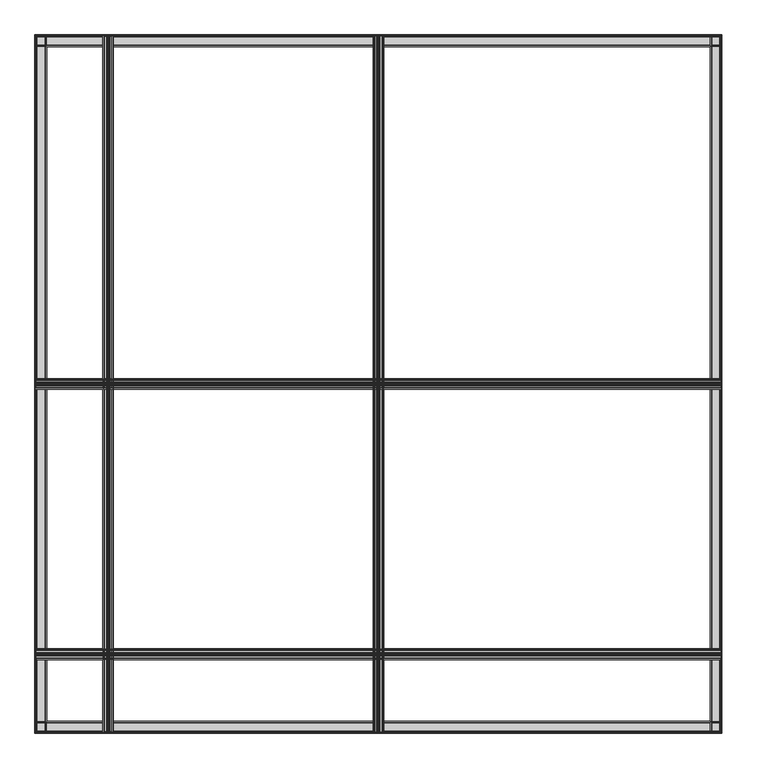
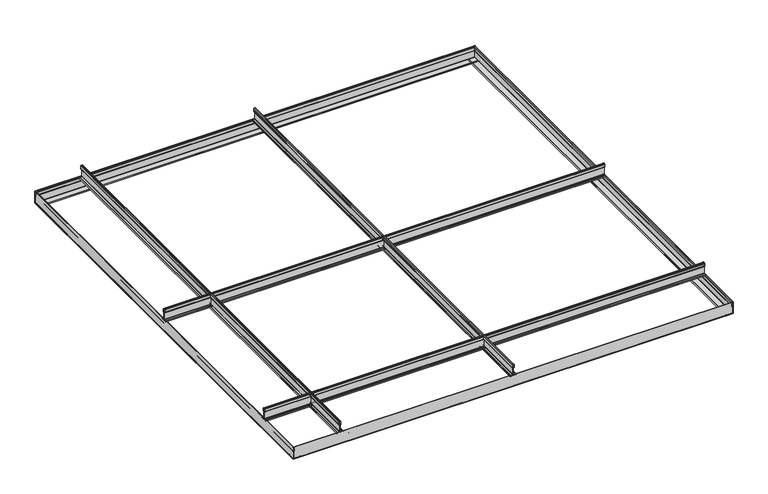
"""IFC4 building model written with IfcOpenShell, lengths in millimetres: proxy geometry, Maxxit_Highland-Ceiling_rev-01 : Maxxit_Highland-Ceiling_Solo."""

from ifc_helpers import new_model, si_unit, point, frame, frame_2d, origin, place, context, project, spatial, polyline, circle_curve, trimmed, segment, composite_curve, outline, extrude, source, transform, mapped, element, save


def generic_models_a852b606(model_context):
    return source(origin(), model_context, "Body", "SweptSolid", [
        extrude(outline(composite_curve([segment(polyline([(26.3453115, 775.8459122), (26.0364605, 784.2159382), (27.0486923, 784.2159382), (27.0486923, 776.4525313)]), True, "CONTINUOUS"), segment(trimmed(circle_curve(frame_2d((28.0053766, 776.4525313)), 0.9566843), [point((27.0486923, 776.4525313))], [point((28.0053766, 775.495847))], True, "CARTESIAN"), True, "CONTINUOUS"), segment(polyline([(28.0053766, 775.495847), (53.7729211, 775.495847)]), True, "CONTINUOUS"), segment(trimmed(circle_curve(frame_2d((53.6130577, 776.2226944)), 0.74422), [point((53.7729211, 775.495847))], [point((54.356, 776.1791036))], True, "CARTESIAN"), True, "CONTINUOUS"), segment(trimmed(circle_curve(frame_2d((58.371716, 776.4382203)), 4.0240672), [point((54.356, 776.1791036))], [point((54.4068054, 777.1256795))], False, "CARTESIAN"), True, "CONTINUOUS"), segment(trimmed(circle_curve(frame_2d((55.7865501, 776.767924)), 1.4253717), [point((54.4068054, 777.1256795))], [point((55.7865501, 778.1932957))], False, "CARTESIAN"), True, "CONTINUOUS"), segment(polyline([(55.7865501, 778.1932957), (64.7585942, 778.1932957)]), True, "CONTINUOUS"), segment(trimmed(circle_curve(frame_2d((64.8150812, 776.1432108)), 2.0508629), [point((64.7585942, 778.1932957))], [point((66.2652603, 777.5933899))], False, "CARTESIAN"), True, "CONTINUOUS"), segment(polyline([(66.2652603, 777.5933899), (68.1708325, 775.6878177)]), True, "CONTINUOUS"), segment(trimmed(circle_curve(frame_2d((67.1830148, 774.7)), 1.3969852), [point((68.1708325, 775.6878177))], [point((68.1708325, 773.7121823))], False, "CARTESIAN"), True, "CONTINUOUS"), segment(polyline([(68.1708325, 773.7121823), (66.2652603, 771.8066101)]), True, "CONTINUOUS"), segment(trimmed(circle_curve(frame_2d((64.8150812, 773.2567892)), 2.0508629), [point((66.2652603, 771.8066101))], [point((64.7585942, 771.2067043))], False, "CARTESIAN"), True, "CONTINUOUS"), segment(polyline([(64.7585942, 771.2067043), (55.7865501, 771.2067043)]), True, "CONTINUOUS"), segment(trimmed(circle_curve(frame_2d((55.7865501, 772.632076)), 1.4253717), [point((55.7865501, 771.2067043))], [point((54.4068054, 772.2743205))], False, "CARTESIAN"), True, "CONTINUOUS"), segment(trimmed(circle_curve(frame_2d((58.371716, 772.9617797)), 4.0240672), [point((54.4068054, 772.2743205))], [point((54.356, 773.2208964))], False, "CARTESIAN"), True, "CONTINUOUS"), segment(trimmed(circle_curve(frame_2d((53.6130577, 773.1773056)), 0.74422), [point((54.356, 773.2208964))], [point((53.7436541, 773.9099774))], True, "CARTESIAN"), True, "CONTINUOUS"), segment(polyline([(53.7436541, 773.9099774), (28.0053766, 773.9099774)]), True, "CONTINUOUS"), segment(trimmed(circle_curve(frame_2d((28.0053766, 772.9532931)), 0.9566843), [point((28.0053766, 773.9099774))], [point((27.0486923, 772.9532931))], True, "CARTESIAN"), True, "CONTINUOUS"), segment(polyline([(27.0486923, 772.9532931), (27.0486923, 764.3569771), (26.0290179, 764.3569771), (26.3453115, 773.5599122)]), True, "CONTINUOUS"), segment(trimmed(circle_curve(frame_2d((27.4883115, 773.5599122)), 1.143), [point((26.3453115, 773.5599122))], [point((27.4883115, 774.7029122))], False, "CARTESIAN"), True, "CONTINUOUS"), segment(trimmed(circle_curve(frame_2d((27.4883115, 775.8459122)), 1.143), [point((27.4883115, 774.7029122))], [point((26.3453115, 775.8459122))], False, "CARTESIAN"), True, "CONTINUOUS")], self_intersect=False), holes=[composite_curve([segment(trimmed(circle_curve(frame_2d((54.058724, 773.6303923)), 1.0922), [point((54.2797221, 774.7))], [point((55.150924, 773.6303923))], False, "CARTESIAN"), True, "CONTINUOUS"), segment(polyline([(55.150924, 773.6303923), (55.150924, 772.6399715)]), True, "CONTINUOUS"), segment(trimmed(circle_curve(frame_2d((55.7859245, 772.6399715)), 0.6350005), [point((55.150924, 772.6399715))], [point((55.7859245, 772.004971))], True, "CARTESIAN"), True, "CONTINUOUS"), segment(polyline([(55.7859245, 772.004971), (64.7585942, 772.004971)]), True, "CONTINUOUS"), segment(trimmed(circle_curve(frame_2d((64.7240599, 773.5078141)), 1.5032399), [point((64.7585942, 772.004971))], [point((65.7039943, 772.3678761))], True, "CARTESIAN"), True, "CONTINUOUS"), segment(polyline([(65.7039943, 772.3678761), (67.6095665, 774.2734483)]), True, "CONTINUOUS"), segment(trimmed(circle_curve(frame_2d((67.1830148, 774.7)), 0.6032352), [point((67.6095665, 774.2734483))], [point((67.6095665, 775.1265517))], True, "CARTESIAN"), True, "CONTINUOUS"), segment(polyline([(67.6095665, 775.1265517), (65.7039943, 777.0321239)]), True, "CONTINUOUS"), segment(trimmed(circle_curve(frame_2d((64.7240599, 775.8921859)), 1.5032399), [point((65.7039943, 777.0321239))], [point((64.7585942, 777.395029))], True, "CARTESIAN"), True, "CONTINUOUS"), segment(polyline([(64.7585942, 777.395029), (55.7859245, 777.395029)]), True, "CONTINUOUS"), segment(trimmed(circle_curve(frame_2d((55.7859245, 776.7600285)), 0.6350005), [point((55.7859245, 777.395029))], [point((55.150924, 776.7600285))], True, "CARTESIAN"), True, "CONTINUOUS"), segment(polyline([(55.150924, 776.7600285), (55.150924, 775.7696077)]), True, "CONTINUOUS"), segment(trimmed(circle_curve(frame_2d((54.058724, 775.7696077)), 1.0922), [point((55.150924, 775.7696077))], [point((54.2797221, 774.7))], False, "CARTESIAN"), True, "CONTINUOUS")], self_intersect=False)]), frame((0.0, -0.79375, 0.0), z_axis=(0.0, 1.0, 0.0), x_axis=(0.0, 0.0, 1.0)), (0.0, 0.0, 1.0), 1574.8),
        extrude(outline(composite_curve([segment(trimmed(circle_curve(frame_2d((26.8823557, 785.1357385)), 1.4823557), [point((25.4, 785.1357385))], [point((28.3175237, 784.7646975))], False, "CARTESIAN"), True, "CONTINUOUS"), segment(polyline([(28.3175237, 784.7646975), (27.887022, 783.2385205), (27.123083, 783.4540113), (27.550773, 784.9702203)]), True, "CONTINUOUS"), segment(trimmed(circle_curve(frame_2d((26.8823557, 785.1357385)), 0.6886057), [point((27.550773, 784.9702203))], [point((26.19375, 785.1357385))], True, "CARTESIAN"), True, "CONTINUOUS"), segment(polyline([(26.19375, 785.1357385), (26.19375, 764.2642615)]), True, "CONTINUOUS"), segment(trimmed(circle_curve(frame_2d((26.8823557, 764.2642615)), 0.6886057), [point((26.19375, 764.2642615))], [point((27.550773, 764.4297797))], True, "CARTESIAN"), True, "CONTINUOUS"), segment(polyline([(27.550773, 764.4297797), (27.123083, 765.9459887), (27.887022, 766.1614795), (28.3175237, 764.6353025)]), True, "CONTINUOUS"), segment(trimmed(circle_curve(frame_2d((26.8823557, 764.2642615)), 1.4823557), [point((28.3175237, 764.6353025))], [point((25.4, 764.2642615))], False, "CARTESIAN"), True, "CONTINUOUS"), segment(polyline([(25.4, 764.2642615), (25.4, 785.1357385)]), True, "CONTINUOUS")], self_intersect=False)), frame((0.0, -0.79375, 0.0), z_axis=(0.0, 1.0, 0.0), x_axis=(0.0, 0.0, 1.0)), (0.0, 0.0, 1.0), 1574.8),
        extrude(outline(composite_curve([segment(trimmed(circle_curve(frame_2d((787.7521622, 27.4883115)), 1.143), [point((787.7521622, 26.3453115))], [point((786.6091622, 27.4883115))], False, "CARTESIAN"), True, "CONTINUOUS"), segment(trimmed(circle_curve(frame_2d((785.4661622, 27.4883115)), 1.143), [point((786.6091622, 27.4883115))], [point((785.4661622, 26.3453115))], False, "CARTESIAN"), True, "CONTINUOUS"), segment(polyline([(785.4661622, 26.3453115), (776.2632271, 26.0290179), (776.2632271, 27.0486923), (784.8595431, 27.0486923)]), True, "CONTINUOUS"), segment(trimmed(circle_curve(frame_2d((784.8595431, 28.0053766)), 0.9566843), [point((784.8595431, 27.0486923))], [point((785.8162274, 28.0053766))], True, "CARTESIAN"), True, "CONTINUOUS"), segment(polyline([(785.8162274, 28.0053766), (785.8162274, 53.7436541)]), True, "CONTINUOUS"), segment(trimmed(circle_curve(frame_2d((785.0835556, 53.6130577)), 0.74422), [point((785.8162274, 53.7436541))], [point((785.1271464, 54.356))], True, "CARTESIAN"), True, "CONTINUOUS"), segment(trimmed(circle_curve(frame_2d((784.8680297, 58.371716)), 4.0240672), [point((785.1271464, 54.356))], [point((784.1805705, 54.4068054))], False, "CARTESIAN"), True, "CONTINUOUS"), segment(trimmed(circle_curve(frame_2d((784.538326, 55.7865501)), 1.4253717), [point((784.1805705, 54.4068054))], [point((783.1129543, 55.7865501))], False, "CARTESIAN"), True, "CONTINUOUS"), segment(polyline([(783.1129543, 55.7865501), (783.1129543, 64.7585942)]), True, "CONTINUOUS"), segment(trimmed(circle_curve(frame_2d((785.1630392, 64.8150812)), 2.0508629), [point((783.1129543, 64.7585942))], [point((783.7128601, 66.2652603))], False, "CARTESIAN"), True, "CONTINUOUS"), segment(polyline([(783.7128601, 66.2652603), (785.6184323, 68.1708325)]), True, "CONTINUOUS"), segment(trimmed(circle_curve(frame_2d((786.60625, 67.1830148)), 1.3969852), [point((785.6184323, 68.1708325))], [point((787.5940677, 68.1708325))], False, "CARTESIAN"), True, "CONTINUOUS"), segment(polyline([(787.5940677, 68.1708325), (789.4996399, 66.2652603)]), True, "CONTINUOUS"), segment(trimmed(circle_curve(frame_2d((788.0494608, 64.8150812)), 2.0508629), [point((789.4996399, 66.2652603))], [point((790.0995457, 64.7585942))], False, "CARTESIAN"), True, "CONTINUOUS"), segment(polyline([(790.0995457, 64.7585942), (790.0995457, 55.7865501)]), True, "CONTINUOUS"), segment(trimmed(circle_curve(frame_2d((788.674174, 55.7865501)), 1.4253717), [point((790.0995457, 55.7865501))], [point((789.0319295, 54.4068054))], False, "CARTESIAN"), True, "CONTINUOUS"), segment(trimmed(circle_curve(frame_2d((788.3444703, 58.371716)), 4.0240672), [point((789.0319295, 54.4068054))], [point((788.0853536, 54.356))], False, "CARTESIAN"), True, "CONTINUOUS"), segment(trimmed(circle_curve(frame_2d((788.1289444, 53.6130577)), 0.74422), [point((788.0853536, 54.356))], [point((787.402097, 53.7729211))], True, "CARTESIAN"), True, "CONTINUOUS"), segment(polyline([(787.402097, 53.7729211), (787.402097, 28.0053766)]), True, "CONTINUOUS"), segment(trimmed(circle_curve(frame_2d((788.3587813, 28.0053766)), 0.9566843), [point((787.402097, 28.0053766))], [point((788.3587813, 27.0486923))], True, "CARTESIAN"), True, "CONTINUOUS"), segment(polyline([(788.3587813, 27.0486923), (796.1221882, 27.0486923), (796.1221882, 26.0364605), (787.7521622, 26.3453115)]), True, "CONTINUOUS")], self_intersect=False), holes=[composite_curve([segment(trimmed(circle_curve(frame_2d((787.6758577, 54.058724)), 1.0922), [point((786.60625, 54.2797221))], [point((787.6758577, 55.150924))], False, "CARTESIAN"), True, "CONTINUOUS"), segment(polyline([(787.6758577, 55.150924), (788.6662785, 55.150924)]), True, "CONTINUOUS"), segment(trimmed(circle_curve(frame_2d((788.6662785, 55.7859245)), 0.6350005), [point((788.6662785, 55.150924))], [point((789.301279, 55.7859245))], True, "CARTESIAN"), True, "CONTINUOUS"), segment(polyline([(789.301279, 55.7859245), (789.301279, 64.7585942)]), True, "CONTINUOUS"), segment(trimmed(circle_curve(frame_2d((787.7984359, 64.7240599)), 1.5032399), [point((789.301279, 64.7585942))], [point((788.9383739, 65.7039943))], True, "CARTESIAN"), True, "CONTINUOUS"), segment(polyline([(788.9383739, 65.7039943), (787.0328017, 67.6095665)]), True, "CONTINUOUS"), segment(trimmed(circle_curve(frame_2d((786.60625, 67.1830148)), 0.6032352), [point((787.0328017, 67.6095665))], [point((786.1796983, 67.6095665))], True, "CARTESIAN"), True, "CONTINUOUS"), segment(polyline([(786.1796983, 67.6095665), (784.2741261, 65.7039943)]), True, "CONTINUOUS"), segment(trimmed(circle_curve(frame_2d((785.4140641, 64.7240599)), 1.5032399), [point((784.2741261, 65.7039943))], [point((783.911221, 64.7585942))], True, "CARTESIAN"), True, "CONTINUOUS"), segment(polyline([(783.911221, 64.7585942), (783.911221, 55.7859245)]), True, "CONTINUOUS"), segment(trimmed(circle_curve(frame_2d((784.5462215, 55.7859245)), 0.6350005), [point((783.911221, 55.7859245))], [point((784.5462215, 55.150924))], True, "CARTESIAN"), True, "CONTINUOUS"), segment(polyline([(784.5462215, 55.150924), (785.5366423, 55.150924)]), True, "CONTINUOUS"), segment(trimmed(circle_curve(frame_2d((785.5366423, 54.058724)), 1.0922), [point((785.5366423, 55.150924))], [point((786.60625, 54.2797221))], False, "CARTESIAN"), True, "CONTINUOUS")], self_intersect=False)]), frame((0.0, 0.0, 0.0), z_axis=(1.0, 0.0, 0.0), x_axis=(0.0, 1.0, 0.0)), (0.0, 0.0, 1.0), 1549.4),
        extrude(outline(composite_curve([segment(polyline([(797.0419885, 25.4), (776.1705115, 25.4)]), True, "CONTINUOUS"), segment(trimmed(circle_curve(frame_2d((776.1705115, 26.8823557)), 1.4823557), [point((776.1705115, 25.4))], [point((776.5415525, 28.3175237))], False, "CARTESIAN"), True, "CONTINUOUS"), segment(polyline([(776.5415525, 28.3175237), (778.0677295, 27.887022), (777.8522387, 27.123083), (776.3360297, 27.550773)]), True, "CONTINUOUS"), segment(trimmed(circle_curve(frame_2d((776.1705115, 26.8823557)), 0.6886057), [point((776.3360297, 27.550773))], [point((776.1705115, 26.19375))], True, "CARTESIAN"), True, "CONTINUOUS"), segment(polyline([(776.1705115, 26.19375), (797.0419885, 26.19375)]), True, "CONTINUOUS"), segment(trimmed(circle_curve(frame_2d((797.0419885, 26.8823557)), 0.6886057), [point((797.0419885, 26.19375))], [point((796.8764703, 27.550773))], True, "CARTESIAN"), True, "CONTINUOUS"), segment(polyline([(796.8764703, 27.550773), (795.3602613, 27.123083), (795.1447705, 27.887022), (796.6709475, 28.3175237)]), True, "CONTINUOUS"), segment(trimmed(circle_curve(frame_2d((797.0419885, 26.8823557)), 1.4823557), [point((796.6709475, 28.3175237))], [point((797.0419885, 25.4))], False, "CARTESIAN"), True, "CONTINUOUS")], self_intersect=False)), frame((0.0, 0.0, 0.0), z_axis=(1.0, 0.0, 0.0), x_axis=(0.0, 1.0, 0.0)), (0.0, 0.0, 1.0), 1549.4),
        extrude(outline(composite_curve([segment(trimmed(circle_curve(frame_2d((178.1521622, 27.4883115)), 1.143), [point((178.1521622, 26.3453115))], [point((177.0091622, 27.4883115))], False, "CARTESIAN"), True, "CONTINUOUS"), segment(trimmed(circle_curve(frame_2d((175.8661622, 27.4883115)), 1.143), [point((177.0091622, 27.4883115))], [point((175.8661622, 26.3453115))], False, "CARTESIAN"), True, "CONTINUOUS"), segment(polyline([(175.8661622, 26.3453115), (166.6632271, 26.0290179), (166.6632271, 27.0486923), (175.2595431, 27.0486923)]), True, "CONTINUOUS"), segment(trimmed(circle_curve(frame_2d((175.2595431, 28.0053766)), 0.9566843), [point((175.2595431, 27.0486923))], [point((176.2162274, 28.0053766))], True, "CARTESIAN"), True, "CONTINUOUS"), segment(polyline([(176.2162274, 28.0053766), (176.2162274, 53.7436541)]), True, "CONTINUOUS"), segment(trimmed(circle_curve(frame_2d((175.4835556, 53.6130577)), 0.74422), [point((176.2162274, 53.7436541))], [point((175.5271464, 54.356))], True, "CARTESIAN"), True, "CONTINUOUS"), segment(trimmed(circle_curve(frame_2d((175.2680297, 58.371716)), 4.0240672), [point((175.5271464, 54.356))], [point((174.5805705, 54.4068054))], False, "CARTESIAN"), True, "CONTINUOUS"), segment(trimmed(circle_curve(frame_2d((174.938326, 55.7865501)), 1.4253717), [point((174.5805705, 54.4068054))], [point((173.5129543, 55.7865501))], False, "CARTESIAN"), True, "CONTINUOUS"), segment(polyline([(173.5129543, 55.7865501), (173.5129543, 64.7585942)]), True, "CONTINUOUS"), segment(trimmed(circle_curve(frame_2d((175.5630392, 64.8150812)), 2.0508629), [point((173.5129543, 64.7585942))], [point((174.1128601, 66.2652603))], False, "CARTESIAN"), True, "CONTINUOUS"), segment(polyline([(174.1128601, 66.2652603), (176.0184323, 68.1708325)]), True, "CONTINUOUS"), segment(trimmed(circle_curve(frame_2d((177.00625, 67.1830148)), 1.3969852), [point((176.0184323, 68.1708325))], [point((177.9940677, 68.1708325))], False, "CARTESIAN"), True, "CONTINUOUS"), segment(polyline([(177.9940677, 68.1708325), (179.8996399, 66.2652603)]), True, "CONTINUOUS"), segment(trimmed(circle_curve(frame_2d((178.4494608, 64.8150812)), 2.0508629), [point((179.8996399, 66.2652603))], [point((180.4995457, 64.7585942))], False, "CARTESIAN"), True, "CONTINUOUS"), segment(polyline([(180.4995457, 64.7585942), (180.4995457, 55.7865501)]), True, "CONTINUOUS"), segment(trimmed(circle_curve(frame_2d((179.074174, 55.7865501)), 1.4253717), [point((180.4995457, 55.7865501))], [point((179.4319295, 54.4068054))], False, "CARTESIAN"), True, "CONTINUOUS"), segment(trimmed(circle_curve(frame_2d((178.7444703, 58.371716)), 4.0240672), [point((179.4319295, 54.4068054))], [point((178.4853536, 54.356))], False, "CARTESIAN"), True, "CONTINUOUS"), segment(trimmed(circle_curve(frame_2d((178.5289444, 53.6130577)), 0.74422), [point((178.4853536, 54.356))], [point((177.802097, 53.7729211))], True, "CARTESIAN"), True, "CONTINUOUS"), segment(polyline([(177.802097, 53.7729211), (177.802097, 28.0053766)]), True, "CONTINUOUS"), segment(trimmed(circle_curve(frame_2d((178.7587813, 28.0053766)), 0.9566843), [point((177.802097, 28.0053766))], [point((178.7587813, 27.0486923))], True, "CARTESIAN"), True, "CONTINUOUS"), segment(polyline([(178.7587813, 27.0486923), (186.5221882, 27.0486923), (186.5221882, 26.0364605), (178.1521622, 26.3453115)]), True, "CONTINUOUS")], self_intersect=False), holes=[composite_curve([segment(trimmed(circle_curve(frame_2d((178.0758577, 54.058724)), 1.0922), [point((177.00625, 54.2797221))], [point((178.0758577, 55.150924))], False, "CARTESIAN"), True, "CONTINUOUS"), segment(polyline([(178.0758577, 55.150924), (179.0662785, 55.150924)]), True, "CONTINUOUS"), segment(trimmed(circle_curve(frame_2d((179.0662785, 55.7859245)), 0.6350005), [point((179.0662785, 55.150924))], [point((179.701279, 55.7859245))], True, "CARTESIAN"), True, "CONTINUOUS"), segment(polyline([(179.701279, 55.7859245), (179.701279, 64.7585942)]), True, "CONTINUOUS"), segment(trimmed(circle_curve(frame_2d((178.1984359, 64.7240599)), 1.5032399), [point((179.701279, 64.7585942))], [point((179.3383739, 65.7039943))], True, "CARTESIAN"), True, "CONTINUOUS"), segment(polyline([(179.3383739, 65.7039943), (177.4328017, 67.6095665)]), True, "CONTINUOUS"), segment(trimmed(circle_curve(frame_2d((177.00625, 67.1830148)), 0.6032352), [point((177.4328017, 67.6095665))], [point((176.5796983, 67.6095665))], True, "CARTESIAN"), True, "CONTINUOUS"), segment(polyline([(176.5796983, 67.6095665), (174.6741261, 65.7039943)]), True, "CONTINUOUS"), segment(trimmed(circle_curve(frame_2d((175.8140641, 64.7240599)), 1.5032399), [point((174.6741261, 65.7039943))], [point((174.311221, 64.7585942))], True, "CARTESIAN"), True, "CONTINUOUS"), segment(polyline([(174.311221, 64.7585942), (174.311221, 55.7859245)]), True, "CONTINUOUS"), segment(trimmed(circle_curve(frame_2d((174.9462215, 55.7859245)), 0.6350005), [point((174.311221, 55.7859245))], [point((174.9462215, 55.150924))], True, "CARTESIAN"), True, "CONTINUOUS"), segment(polyline([(174.9462215, 55.150924), (175.9366423, 55.150924)]), True, "CONTINUOUS"), segment(trimmed(circle_curve(frame_2d((175.9366423, 54.058724)), 1.0922), [point((175.9366423, 55.150924))], [point((177.00625, 54.2797221))], False, "CARTESIAN"), True, "CONTINUOUS")], self_intersect=False)]), frame((0.0, 0.0, 0.0), z_axis=(1.0, 0.0, 0.0), x_axis=(0.0, 1.0, 0.0)), (0.0, 0.0, 1.0), 1549.4),
        extrude(outline(composite_curve([segment(polyline([(187.4419885, 25.4), (166.5705115, 25.4)]), True, "CONTINUOUS"), segment(trimmed(circle_curve(frame_2d((166.5705115, 26.8823557)), 1.4823557), [point((166.5705115, 25.4))], [point((166.9415525, 28.3175237))], False, "CARTESIAN"), True, "CONTINUOUS"), segment(polyline([(166.9415525, 28.3175237), (168.4677295, 27.887022), (168.2522387, 27.123083), (166.7360297, 27.550773)]), True, "CONTINUOUS"), segment(trimmed(circle_curve(frame_2d((166.5705115, 26.8823557)), 0.6886057), [point((166.7360297, 27.550773))], [point((166.5705115, 26.19375))], True, "CARTESIAN"), True, "CONTINUOUS"), segment(polyline([(166.5705115, 26.19375), (187.4419885, 26.19375)]), True, "CONTINUOUS"), segment(trimmed(circle_curve(frame_2d((187.4419885, 26.8823557)), 0.6886057), [point((187.4419885, 26.19375))], [point((187.2764703, 27.550773))], True, "CARTESIAN"), True, "CONTINUOUS"), segment(polyline([(187.2764703, 27.550773), (185.7602613, 27.123083), (185.5447705, 27.887022), (187.0709475, 28.3175237)]), True, "CONTINUOUS"), segment(trimmed(circle_curve(frame_2d((187.4419885, 26.8823557)), 1.4823557), [point((187.0709475, 28.3175237))], [point((187.4419885, 25.4))], False, "CARTESIAN"), True, "CONTINUOUS")], self_intersect=False)), frame((0.0, 0.0, 0.0), z_axis=(1.0, 0.0, 0.0), x_axis=(0.0, 1.0, 0.0)), (0.0, 0.0, 1.0), 1549.4),
        extrude(outline(composite_curve([segment(polyline([(-14.9820313, 1549.3700026), (-14.1882813, 1549.3700026), (-14.1882813, 1524.6746645)]), True, "CONTINUOUS"), segment(trimmed(circle_curve(frame_2d((-13.4996755, 1524.6746645)), 0.6886057), [point((-14.1882813, 1524.6746645))], [point((-12.8312583, 1524.8401827))], True, "CARTESIAN"), True, "CONTINUOUS"), segment(polyline([(-12.8312583, 1524.8401827), (-13.2589482, 1526.3563917), (-12.4950092, 1526.5718825), (-12.0645075, 1525.0457055)]), True, "CONTINUOUS"), segment(trimmed(circle_curve(frame_2d((-13.4996755, 1524.6746645)), 1.4823557), [point((-12.0645075, 1525.0457055))], [point((-14.9820313, 1524.6746645))], False, "CARTESIAN"), True, "CONTINUOUS"), segment(polyline([(-14.9820313, 1524.6746645), (-14.9820313, 1549.3700026)]), True, "CONTINUOUS")], self_intersect=False)), frame((0.0, -0.79375, 0.0), z_axis=(0.0, 1.0, 0.0), x_axis=(0.0, 0.0, 1.0)), (0.0, 0.0, 1.0), 1574.8),
        extrude(outline(composite_curve([segment(trimmed(circle_curve(frame_2d((26.9918874, 1548.604153)), 1.3969852), [point((28.1400142, 1549.4))], [point((27.9797051, 1547.6163353))], False, "CARTESIAN"), True, "CONTINUOUS"), segment(polyline([(27.9797051, 1547.6163353), (26.0741329, 1545.7107631)]), True, "CONTINUOUS"), segment(trimmed(circle_curve(frame_2d((24.6239538, 1547.1609422)), 2.0508629), [point((26.0741329, 1545.7107631))], [point((24.5674668, 1545.1108573))], False, "CARTESIAN"), True, "CONTINUOUS"), segment(polyline([(24.5674668, 1545.1108573), (14.4241684, 1545.1108573)]), True, "CONTINUOUS"), segment(trimmed(circle_curve(frame_2d((14.4241684, 1546.536229)), 1.4253717), [point((14.4241684, 1545.1108573))], [point((13.0444237, 1546.1784735))], False, "CARTESIAN"), True, "CONTINUOUS"), segment(trimmed(circle_curve(frame_2d((17.0093343, 1546.8659327)), 4.0240672), [point((13.0444237, 1546.1784735))], [point((12.9936183, 1547.1250494))], False, "CARTESIAN"), True, "CONTINUOUS"), segment(trimmed(circle_curve(frame_2d((12.250676, 1547.0814586)), 0.74422), [point((12.9936183, 1547.1250494))], [point((12.3812724, 1547.8141304))], True, "CARTESIAN"), True, "CONTINUOUS"), segment(polyline([(12.3812724, 1547.8141304), (-12.3766547, 1547.8141304)]), True, "CONTINUOUS"), segment(trimmed(circle_curve(frame_2d((-12.3766547, 1546.8574461)), 0.9566843), [point((-12.3766547, 1547.8141304))], [point((-13.333339, 1546.8574461))], True, "CARTESIAN"), True, "CONTINUOUS"), segment(polyline([(-13.333339, 1546.8574461), (-13.333339, 1524.7673801), (-14.3530133, 1524.7673801), (-14.0306827, 1548.1396787)]), True, "CONTINUOUS"), segment(trimmed(circle_curve(frame_2d((-12.8937197, 1548.257)), 1.143), [point((-14.0306827, 1548.1396787))], [point((-12.8937197, 1549.4))], False, "CARTESIAN"), True, "CONTINUOUS"), segment(polyline([(-12.8937197, 1549.4), (28.1400142, 1549.4)]), True, "CONTINUOUS")], self_intersect=False), holes=[composite_curve([segment(trimmed(circle_curve(frame_2d((14.4235428, 1547.9667328)), 0.6350005), [point((14.4235428, 1548.6017333))], [point((13.7885423, 1547.9667328))], True, "CARTESIAN"), True, "CONTINUOUS"), segment(polyline([(13.7885423, 1547.9667328), (13.7885423, 1546.5441244)]), True, "CONTINUOUS"), segment(trimmed(circle_curve(frame_2d((14.4235428, 1546.5441244)), 0.6350005), [point((13.7885423, 1546.5441244))], [point((14.4235428, 1545.909124))], True, "CARTESIAN"), True, "CONTINUOUS"), segment(polyline([(14.4235428, 1545.909124), (24.5674668, 1545.909124)]), True, "CONTINUOUS"), segment(trimmed(circle_curve(frame_2d((24.5329325, 1547.4119671)), 1.5032399), [point((24.5674668, 1545.909124))], [point((25.5128669, 1546.2720291))], True, "CARTESIAN"), True, "CONTINUOUS"), segment(polyline([(25.5128669, 1546.2720291), (27.8425711, 1548.6017333), (14.4235428, 1548.6017333)]), True, "CONTINUOUS")], self_intersect=False)]), frame((0.0, -0.79375, 0.0), z_axis=(0.0, 1.0, 0.0), x_axis=(0.0, 0.0, 1.0)), (0.0, 0.0, 1.0), 1574.8),
        extrude(outline(composite_curve([segment(polyline([(1573.9762526, -14.9820313), (1549.2809145, -14.9820313)]), True, "CONTINUOUS"), segment(trimmed(circle_curve(frame_2d((1549.2809145, -13.4996755)), 1.4823557), [point((1549.2809145, -14.9820313))], [point((1549.6519555, -12.0645075))], False, "CARTESIAN"), True, "CONTINUOUS"), segment(polyline([(1549.6519555, -12.0645075), (1551.1781325, -12.4950092), (1550.9626417, -13.2589482), (1549.4464327, -12.8312583)]), True, "CONTINUOUS"), segment(trimmed(circle_curve(frame_2d((1549.2809145, -13.4996755)), 0.6886057), [point((1549.4464327, -12.8312583))], [point((1549.2809145, -14.1882813))], True, "CARTESIAN"), True, "CONTINUOUS"), segment(polyline([(1549.2809145, -14.1882813), (1573.9762526, -14.1882813), (1573.9762526, -14.9820313)]), True, "CONTINUOUS")], self_intersect=False)), frame((0.0, 0.0, 0.0), z_axis=(1.0, 0.0, 0.0), x_axis=(0.0, 1.0, 0.0)), (0.0, 0.0, 1.0), 1549.4),
        extrude(outline(composite_curve([segment(polyline([(1574.00625, 28.1400142), (1574.00625, -12.8937197)]), True, "CONTINUOUS"), segment(trimmed(circle_curve(frame_2d((1572.86325, -12.8937197)), 1.143), [point((1574.00625, -12.8937197))], [point((1572.7459287, -14.0306827))], False, "CARTESIAN"), True, "CONTINUOUS"), segment(polyline([(1572.7459287, -14.0306827), (1549.3736301, -14.3530133), (1549.3736301, -13.333339), (1571.4636961, -13.333339)]), True, "CONTINUOUS"), segment(trimmed(circle_curve(frame_2d((1571.4636961, -12.3766547)), 0.9566843), [point((1571.4636961, -13.333339))], [point((1572.4203804, -12.3766547))], True, "CARTESIAN"), True, "CONTINUOUS"), segment(polyline([(1572.4203804, -12.3766547), (1572.4203804, 12.3812724)]), True, "CONTINUOUS"), segment(trimmed(circle_curve(frame_2d((1571.6877086, 12.250676)), 0.74422), [point((1572.4203804, 12.3812724))], [point((1571.7312994, 12.9936183))], True, "CARTESIAN"), True, "CONTINUOUS"), segment(trimmed(circle_curve(frame_2d((1571.4721827, 17.0093343)), 4.0240672), [point((1571.7312994, 12.9936183))], [point((1570.7847235, 13.0444237))], False, "CARTESIAN"), True, "CONTINUOUS"), segment(trimmed(circle_curve(frame_2d((1571.142479, 14.4241684)), 1.4253717), [point((1570.7847235, 13.0444237))], [point((1569.7171073, 14.4241684))], False, "CARTESIAN"), True, "CONTINUOUS"), segment(polyline([(1569.7171073, 14.4241684), (1569.7171073, 24.5674668)]), True, "CONTINUOUS"), segment(trimmed(circle_curve(frame_2d((1571.7671922, 24.6239538)), 2.0508629), [point((1569.7171073, 24.5674668))], [point((1570.3170131, 26.0741329))], False, "CARTESIAN"), True, "CONTINUOUS"), segment(polyline([(1570.3170131, 26.0741329), (1572.2225853, 27.9797051)]), True, "CONTINUOUS"), segment(trimmed(circle_curve(frame_2d((1573.210403, 26.9918874)), 1.3969852), [point((1572.2225853, 27.9797051))], [point((1574.00625, 28.1400142))], False, "CARTESIAN"), True, "CONTINUOUS")], self_intersect=False), holes=[composite_curve([segment(polyline([(1573.2079833, 14.4235428), (1573.2079833, 27.8425711), (1570.8782791, 25.5128669)]), True, "CONTINUOUS"), segment(trimmed(circle_curve(frame_2d((1572.0182171, 24.5329325)), 1.5032399), [point((1570.8782791, 25.5128669))], [point((1570.515374, 24.5674668))], True, "CARTESIAN"), True, "CONTINUOUS"), segment(polyline([(1570.515374, 24.5674668), (1570.515374, 14.4235428)]), True, "CONTINUOUS"), segment(trimmed(circle_curve(frame_2d((1571.1503744, 14.4235428)), 0.6350005), [point((1570.515374, 14.4235428))], [point((1571.1503744, 13.7885423))], True, "CARTESIAN"), True, "CONTINUOUS"), segment(polyline([(1571.1503744, 13.7885423), (1572.5729828, 13.7885423)]), True, "CONTINUOUS"), segment(trimmed(circle_curve(frame_2d((1572.5729828, 14.4235428)), 0.6350005), [point((1572.5729828, 13.7885423))], [point((1573.2079833, 14.4235428))], True, "CARTESIAN"), True, "CONTINUOUS")], self_intersect=False)]), frame((0.0, 0.0, 0.0), z_axis=(1.0, 0.0, 0.0), x_axis=(0.0, 1.0, 0.0)), (0.0, 0.0, 1.0), 1549.4),
        extrude(outline(composite_curve([segment(polyline([(-14.9820313, 0.0299974), (-14.9820313, 24.7253355)]), True, "CONTINUOUS"), segment(trimmed(circle_curve(frame_2d((-13.4996755, 24.7253355)), 1.4823557), [point((-14.9820313, 24.7253355))], [point((-12.0645075, 24.3542945))], False, "CARTESIAN"), True, "CONTINUOUS"), segment(polyline([(-12.0645075, 24.3542945), (-12.4950092, 22.8281175), (-13.2589482, 23.0436083), (-12.8312583, 24.5598173)]), True, "CONTINUOUS"), segment(trimmed(circle_curve(frame_2d((-13.4996755, 24.7253355)), 0.6886057), [point((-12.8312583, 24.5598173))], [point((-14.1882813, 24.7253355))], True, "CARTESIAN"), True, "CONTINUOUS"), segment(polyline([(-14.1882813, 24.7253355), (-14.1882813, 0.0299974), (-14.9820313, 0.0299974)]), True, "CONTINUOUS")], self_intersect=False)), frame((0.0, -0.79375, 0.0), z_axis=(0.0, 1.0, 0.0), x_axis=(0.0, 0.0, 1.0)), (0.0, 0.0, 1.0), 1574.8),
        extrude(outline(composite_curve([segment(polyline([(28.1400142, 0.0), (-12.8937197, 0.0)]), True, "CONTINUOUS"), segment(trimmed(circle_curve(frame_2d((-12.8937197, 1.143)), 1.143), [point((-12.8937197, 0.0))], [point((-14.0306827, 1.2603213))], False, "CARTESIAN"), True, "CONTINUOUS"), segment(polyline([(-14.0306827, 1.2603213), (-14.3530133, 24.6326199), (-13.333339, 24.6326199), (-13.333339, 2.5425539)]), True, "CONTINUOUS"), segment(trimmed(circle_curve(frame_2d((-12.3766547, 2.5425539)), 0.9566843), [point((-13.333339, 2.5425539))], [point((-12.3766547, 1.5858696))], True, "CARTESIAN"), True, "CONTINUOUS"), segment(polyline([(-12.3766547, 1.5858696), (12.3812724, 1.5858696)]), True, "CONTINUOUS"), segment(trimmed(circle_curve(frame_2d((12.250676, 2.3185414)), 0.74422), [point((12.3812724, 1.5858696))], [point((12.9936183, 2.2749506))], True, "CARTESIAN"), True, "CONTINUOUS"), segment(trimmed(circle_curve(frame_2d((17.0093343, 2.5340673)), 4.0240672), [point((12.9936183, 2.2749506))], [point((13.0444237, 3.2215265))], False, "CARTESIAN"), True, "CONTINUOUS"), segment(trimmed(circle_curve(frame_2d((14.4241684, 2.863771)), 1.4253717), [point((13.0444237, 3.2215265))], [point((14.4241684, 4.2891427))], False, "CARTESIAN"), True, "CONTINUOUS"), segment(polyline([(14.4241684, 4.2891427), (24.5674668, 4.2891427)]), True, "CONTINUOUS"), segment(trimmed(circle_curve(frame_2d((24.6239538, 2.2390578)), 2.0508629), [point((24.5674668, 4.2891427))], [point((26.0741329, 3.6892369))], False, "CARTESIAN"), True, "CONTINUOUS"), segment(polyline([(26.0741329, 3.6892369), (27.9797051, 1.7836647)]), True, "CONTINUOUS"), segment(trimmed(circle_curve(frame_2d((26.9918874, 0.795847)), 1.3969852), [point((27.9797051, 1.7836647))], [point((28.1400142, 0.0))], False, "CARTESIAN"), True, "CONTINUOUS")], self_intersect=False), holes=[composite_curve([segment(polyline([(14.4235428, 0.7982667), (27.8425711, 0.7982667), (25.5128669, 3.1279709)]), True, "CONTINUOUS"), segment(trimmed(circle_curve(frame_2d((24.5329325, 1.9880329)), 1.5032399), [point((25.5128669, 3.1279709))], [point((24.5674668, 3.490876))], True, "CARTESIAN"), True, "CONTINUOUS"), segment(polyline([(24.5674668, 3.490876), (14.4235428, 3.490876)]), True, "CONTINUOUS"), segment(trimmed(circle_curve(frame_2d((14.4235428, 2.8558756)), 0.6350005), [point((14.4235428, 3.490876))], [point((13.7885423, 2.8558756))], True, "CARTESIAN"), True, "CONTINUOUS"), segment(polyline([(13.7885423, 2.8558756), (13.7885423, 1.4332672)]), True, "CONTINUOUS"), segment(trimmed(circle_curve(frame_2d((14.4235428, 1.4332672)), 0.6350005), [point((13.7885423, 1.4332672))], [point((14.4235428, 0.7982667))], True, "CARTESIAN"), True, "CONTINUOUS")], self_intersect=False)]), frame((0.0, -0.79375, 0.0), z_axis=(0.0, 1.0, 0.0), x_axis=(0.0, 0.0, 1.0)), (0.0, 0.0, 1.0), 1574.8),
        extrude(outline(composite_curve([segment(polyline([(-0.7637526, -14.9820313), (-0.7637526, -14.1882813), (23.9315855, -14.1882813)]), True, "CONTINUOUS"), segment(trimmed(circle_curve(frame_2d((23.9315855, -13.4996755)), 0.6886057), [point((23.9315855, -14.1882813))], [point((23.7660673, -12.8312583))], True, "CARTESIAN"), True, "CONTINUOUS"), segment(polyline([(23.7660673, -12.8312583), (22.2498583, -13.2589482), (22.0343675, -12.4950092), (23.5605445, -12.0645075)]), True, "CONTINUOUS"), segment(trimmed(circle_curve(frame_2d((23.9315855, -13.4996755)), 1.4823557), [point((23.5605445, -12.0645075))], [point((23.9315855, -14.9820313))], False, "CARTESIAN"), True, "CONTINUOUS"), segment(polyline([(23.9315855, -14.9820313), (-0.7637526, -14.9820313)]), True, "CONTINUOUS")], self_intersect=False)), frame((0.0, 0.0, 0.0), z_axis=(1.0, 0.0, 0.0), x_axis=(0.0, 1.0, 0.0)), (0.0, 0.0, 1.0), 1549.4),
        extrude(outline(composite_curve([segment(trimmed(circle_curve(frame_2d((0.002097, 26.9918874)), 1.3969852), [point((-0.79375, 28.1400142))], [point((0.9899147, 27.9797051))], False, "CARTESIAN"), True, "CONTINUOUS"), segment(polyline([(0.9899147, 27.9797051), (2.8954869, 26.0741329)]), True, "CONTINUOUS"), segment(trimmed(circle_curve(frame_2d((1.4453078, 24.6239538)), 2.0508629), [point((2.8954869, 26.0741329))], [point((3.4953927, 24.5674668))], False, "CARTESIAN"), True, "CONTINUOUS"), segment(polyline([(3.4953927, 24.5674668), (3.4953927, 14.4241684)]), True, "CONTINUOUS"), segment(trimmed(circle_curve(frame_2d((2.070021, 14.4241684)), 1.4253717), [point((3.4953927, 14.4241684))], [point((2.4277765, 13.0444237))], False, "CARTESIAN"), True, "CONTINUOUS"), segment(trimmed(circle_curve(frame_2d((1.7403173, 17.0093343)), 4.0240672), [point((2.4277765, 13.0444237))], [point((1.4812006, 12.9936183))], False, "CARTESIAN"), True, "CONTINUOUS"), segment(trimmed(circle_curve(frame_2d((1.5247914, 12.250676)), 0.74422), [point((1.4812006, 12.9936183))], [point((0.7921196, 12.3812724))], True, "CARTESIAN"), True, "CONTINUOUS"), segment(polyline([(0.7921196, 12.3812724), (0.7921196, -12.3766547)]), True, "CONTINUOUS"), segment(trimmed(circle_curve(frame_2d((1.7488039, -12.3766547)), 0.9566843), [point((0.7921196, -12.3766547))], [point((1.7488039, -13.333339))], True, "CARTESIAN"), True, "CONTINUOUS"), segment(polyline([(1.7488039, -13.333339), (23.8388699, -13.333339), (23.8388699, -14.3530133), (0.4665713, -14.0306827)]), True, "CONTINUOUS"), segment(trimmed(circle_curve(frame_2d((0.34925, -12.8937197)), 1.143), [point((0.4665713, -14.0306827))], [point((-0.79375, -12.8937197))], False, "CARTESIAN"), True, "CONTINUOUS"), segment(polyline([(-0.79375, -12.8937197), (-0.79375, 28.1400142)]), True, "CONTINUOUS")], self_intersect=False), holes=[composite_curve([segment(trimmed(circle_curve(frame_2d((0.6395172, 14.4235428)), 0.6350005), [point((0.0045167, 14.4235428))], [point((0.6395172, 13.7885423))], True, "CARTESIAN"), True, "CONTINUOUS"), segment(polyline([(0.6395172, 13.7885423), (2.0621256, 13.7885423)]), True, "CONTINUOUS"), segment(trimmed(circle_curve(frame_2d((2.0621256, 14.4235428)), 0.6350005), [point((2.0621256, 13.7885423))], [point((2.697126, 14.4235428))], True, "CARTESIAN"), True, "CONTINUOUS"), segment(polyline([(2.697126, 14.4235428), (2.697126, 24.5674668)]), True, "CONTINUOUS"), segment(trimmed(circle_curve(frame_2d((1.1942829, 24.5329325)), 1.5032399), [point((2.697126, 24.5674668))], [point((2.3342209, 25.5128669))], True, "CARTESIAN"), True, "CONTINUOUS"), segment(polyline([(2.3342209, 25.5128669), (0.0045167, 27.8425711), (0.0045167, 14.4235428)]), True, "CONTINUOUS")], self_intersect=False)]), frame((0.0, 0.0, 0.0), z_axis=(1.0, 0.0, 0.0), x_axis=(0.0, 1.0, 0.0)), (0.0, 0.0, 1.0), 1549.4),
        extrude(outline(composite_curve([segment(polyline([(26.3453115, 166.2459122), (26.0364605, 174.6159382), (27.0486923, 174.6159382), (27.0486923, 166.8525313)]), True, "CONTINUOUS"), segment(trimmed(circle_curve(frame_2d((28.0053766, 166.8525313)), 0.9566843), [point((27.0486923, 166.8525313))], [point((28.0053766, 165.895847))], True, "CARTESIAN"), True, "CONTINUOUS"), segment(polyline([(28.0053766, 165.895847), (53.7729211, 165.895847)]), True, "CONTINUOUS"), segment(trimmed(circle_curve(frame_2d((53.6130577, 166.6226944)), 0.74422), [point((53.7729211, 165.895847))], [point((54.356, 166.5791036))], True, "CARTESIAN"), True, "CONTINUOUS"), segment(trimmed(circle_curve(frame_2d((58.371716, 166.8382203)), 4.0240672), [point((54.356, 166.5791036))], [point((54.4068054, 167.5256795))], False, "CARTESIAN"), True, "CONTINUOUS"), segment(trimmed(circle_curve(frame_2d((55.7865501, 167.167924)), 1.4253717), [point((54.4068054, 167.5256795))], [point((55.7865501, 168.5932957))], False, "CARTESIAN"), True, "CONTINUOUS"), segment(polyline([(55.7865501, 168.5932957), (64.7585942, 168.5932957)]), True, "CONTINUOUS"), segment(trimmed(circle_curve(frame_2d((64.8150812, 166.5432108)), 2.0508629), [point((64.7585942, 168.5932957))], [point((66.2652603, 167.9933899))], False, "CARTESIAN"), True, "CONTINUOUS"), segment(polyline([(66.2652603, 167.9933899), (68.1708325, 166.0878177)]), True, "CONTINUOUS"), segment(trimmed(circle_curve(frame_2d((67.1830148, 165.1)), 1.3969852), [point((68.1708325, 166.0878177))], [point((68.1708325, 164.1121823))], False, "CARTESIAN"), True, "CONTINUOUS"), segment(polyline([(68.1708325, 164.1121823), (66.2652603, 162.2066101)]), True, "CONTINUOUS"), segment(trimmed(circle_curve(frame_2d((64.8150812, 163.6567892)), 2.0508629), [point((66.2652603, 162.2066101))], [point((64.7585942, 161.6067043))], False, "CARTESIAN"), True, "CONTINUOUS"), segment(polyline([(64.7585942, 161.6067043), (55.7865501, 161.6067043)]), True, "CONTINUOUS"), segment(trimmed(circle_curve(frame_2d((55.7865501, 163.032076)), 1.4253717), [point((55.7865501, 161.6067043))], [point((54.4068054, 162.6743205))], False, "CARTESIAN"), True, "CONTINUOUS"), segment(trimmed(circle_curve(frame_2d((58.371716, 163.3617797)), 4.0240672), [point((54.4068054, 162.6743205))], [point((54.356, 163.6208964))], False, "CARTESIAN"), True, "CONTINUOUS"), segment(trimmed(circle_curve(frame_2d((53.6130577, 163.5773056)), 0.74422), [point((54.356, 163.6208964))], [point((53.7436541, 164.3099774))], True, "CARTESIAN"), True, "CONTINUOUS"), segment(polyline([(53.7436541, 164.3099774), (28.0053766, 164.3099774)]), True, "CONTINUOUS"), segment(trimmed(circle_curve(frame_2d((28.0053766, 163.3532931)), 0.9566843), [point((28.0053766, 164.3099774))], [point((27.0486923, 163.3532931))], True, "CARTESIAN"), True, "CONTINUOUS"), segment(polyline([(27.0486923, 163.3532931), (27.0486923, 154.7569771), (26.0290179, 154.7569771), (26.3453115, 163.9599122)]), True, "CONTINUOUS"), segment(trimmed(circle_curve(frame_2d((27.4883115, 163.9599122)), 1.143), [point((26.3453115, 163.9599122))], [point((27.4883115, 165.1029122))], False, "CARTESIAN"), True, "CONTINUOUS"), segment(trimmed(circle_curve(frame_2d((27.4883115, 166.2459122)), 1.143), [point((27.4883115, 165.1029122))], [point((26.3453115, 166.2459122))], False, "CARTESIAN"), True, "CONTINUOUS")], self_intersect=False), holes=[composite_curve([segment(trimmed(circle_curve(frame_2d((54.058724, 164.0303923)), 1.0922), [point((54.2797221, 165.1))], [point((55.150924, 164.0303923))], False, "CARTESIAN"), True, "CONTINUOUS"), segment(polyline([(55.150924, 164.0303923), (55.150924, 163.0399715)]), True, "CONTINUOUS"), segment(trimmed(circle_curve(frame_2d((55.7859245, 163.0399715)), 0.6350005), [point((55.150924, 163.0399715))], [point((55.7859245, 162.404971))], True, "CARTESIAN"), True, "CONTINUOUS"), segment(polyline([(55.7859245, 162.404971), (64.7585942, 162.404971)]), True, "CONTINUOUS"), segment(trimmed(circle_curve(frame_2d((64.7240599, 163.9078141)), 1.5032399), [point((64.7585942, 162.404971))], [point((65.7039943, 162.7678761))], True, "CARTESIAN"), True, "CONTINUOUS"), segment(polyline([(65.7039943, 162.7678761), (67.6095665, 164.6734483)]), True, "CONTINUOUS"), segment(trimmed(circle_curve(frame_2d((67.1830148, 165.1)), 0.6032352), [point((67.6095665, 164.6734483))], [point((67.6095665, 165.5265517))], True, "CARTESIAN"), True, "CONTINUOUS"), segment(polyline([(67.6095665, 165.5265517), (65.7039943, 167.4321239)]), True, "CONTINUOUS"), segment(trimmed(circle_curve(frame_2d((64.7240599, 166.2921859)), 1.5032399), [point((65.7039943, 167.4321239))], [point((64.7585942, 167.795029))], True, "CARTESIAN"), True, "CONTINUOUS"), segment(polyline([(64.7585942, 167.795029), (55.7859245, 167.795029)]), True, "CONTINUOUS"), segment(trimmed(circle_curve(frame_2d((55.7859245, 167.1600285)), 0.6350005), [point((55.7859245, 167.795029))], [point((55.150924, 167.1600285))], True, "CARTESIAN"), True, "CONTINUOUS"), segment(polyline([(55.150924, 167.1600285), (55.150924, 166.1696077)]), True, "CONTINUOUS"), segment(trimmed(circle_curve(frame_2d((54.058724, 166.1696077)), 1.0922), [point((55.150924, 166.1696077))], [point((54.2797221, 165.1))], False, "CARTESIAN"), True, "CONTINUOUS")], self_intersect=False)]), frame((0.0, -0.79375, 0.0), z_axis=(0.0, 1.0, 0.0), x_axis=(0.0, 0.0, 1.0)), (0.0, 0.0, 1.0), 1574.8),
        extrude(outline(composite_curve([segment(trimmed(circle_curve(frame_2d((26.8823557, 175.5357385)), 1.4823557), [point((25.4, 175.5357385))], [point((28.3175237, 175.1646975))], False, "CARTESIAN"), True, "CONTINUOUS"), segment(polyline([(28.3175237, 175.1646975), (27.887022, 173.6385205), (27.123083, 173.8540113), (27.550773, 175.3702203)]), True, "CONTINUOUS"), segment(trimmed(circle_curve(frame_2d((26.8823557, 175.5357385)), 0.6886057), [point((27.550773, 175.3702203))], [point((26.19375, 175.5357385))], True, "CARTESIAN"), True, "CONTINUOUS"), segment(polyline([(26.19375, 175.5357385), (26.19375, 154.6642615)]), True, "CONTINUOUS"), segment(trimmed(circle_curve(frame_2d((26.8823557, 154.6642615)), 0.6886057), [point((26.19375, 154.6642615))], [point((27.550773, 154.8297797))], True, "CARTESIAN"), True, "CONTINUOUS"), segment(polyline([(27.550773, 154.8297797), (27.123083, 156.3459887), (27.887022, 156.5614795), (28.3175237, 155.0353025)]), True, "CONTINUOUS"), segment(trimmed(circle_curve(frame_2d((26.8823557, 154.6642615)), 1.4823557), [point((28.3175237, 155.0353025))], [point((25.4, 154.6642615))], False, "CARTESIAN"), True, "CONTINUOUS"), segment(polyline([(25.4, 154.6642615), (25.4, 175.5357385)]), True, "CONTINUOUS")], self_intersect=False)), frame((0.0, -0.79375, 0.0), z_axis=(0.0, 1.0, 0.0), x_axis=(0.0, 0.0, 1.0)), (0.0, 0.0, 1.0), 1574.8),
    ])


if __name__ == "__main__":
    model = new_model("IFC4")
    model_context = context("Model", 3, world=origin())
    ifc_project = project(units=[si_unit("LENGTHUNIT", "METRE", prefix="MILLI")], contexts=[model_context])
    site = spatial("IfcSite", under=ifc_project)
    building = spatial("IfcBuilding", under=site)
    placement = place(None, origin())
    generic_models_shape = generic_models_a852b606(model_context)
    element("IfcBuildingElementProxy", 1, Name="Maxxit_Highland-Ceiling_rev-01 : Maxxit_Highland-Ceiling_Solo", ObjectType="Maxxit_Highland-Ceiling_rev-01 : Maxxit_Highland-Ceiling_Solo", at=placement, inside=building, context=model_context, shape_type="MappedRepresentation", body=[
        mapped(generic_models_shape, transform((0.0, 0.0, 0.0), x_axis=(1.0, 0.0, 0.0), y_axis=(0.0, 1.0, 0.0), z_axis=(0.0, 0.0, 1.0))),
    ])
    save(model, "model.ifc")
